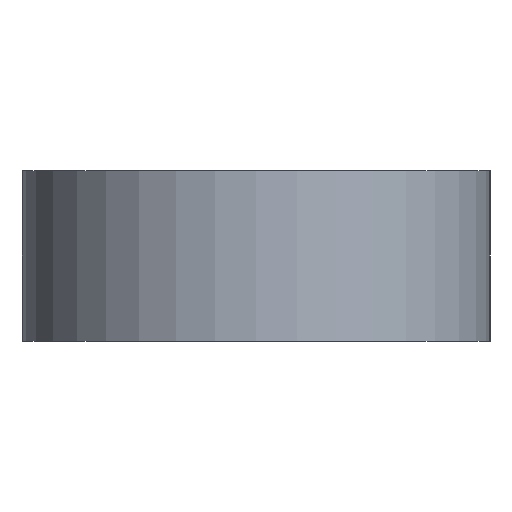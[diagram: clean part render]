
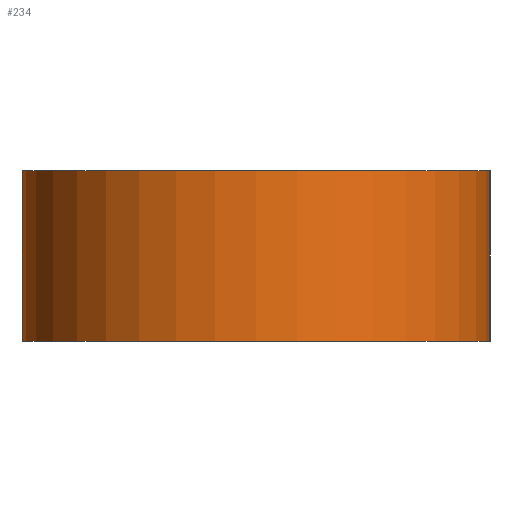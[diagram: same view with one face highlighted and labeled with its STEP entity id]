
A CAD part, left-side view. The second image highlights one B-rep face of the part: STEP entity #234.
In plain terms, the highlighted cylindrical face has radius 11 mm (diameter 22 mm), a partial arc.
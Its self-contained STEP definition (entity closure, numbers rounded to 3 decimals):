
#20=CYLINDRICAL_SURFACE('',#259,11.);
#47=FACE_OUTER_BOUND('',#67,.T.);
#67=EDGE_LOOP('',(#189,#190,#191,#192));
#98=LINE('',#388,#106);
#99=LINE('',#389,#107);
#106=VECTOR('',#312,8.);
#107=VECTOR('',#313,8.);
#111=CIRCLE('',#251,11.);
#118=CIRCLE('',#260,11.);
#130=VERTEX_POINT('',#363);
#131=VERTEX_POINT('',#365);
#139=VERTEX_POINT('',#385);
#140=VERTEX_POINT('',#386);
#152=EDGE_CURVE('',#131,#130,#111,.T.);
#162=EDGE_CURVE('',#139,#140,#118,.T.);
#163=EDGE_CURVE('',#140,#131,#98,.T.);
#164=EDGE_CURVE('',#130,#139,#99,.T.);
#189=ORIENTED_EDGE('',*,*,#162,.T.);
#190=ORIENTED_EDGE('',*,*,#163,.T.);
#191=ORIENTED_EDGE('',*,*,#152,.T.);
#192=ORIENTED_EDGE('',*,*,#164,.T.);
#234=ADVANCED_FACE('',(#47),#20,.T.);
#251=AXIS2_PLACEMENT_3D('',#366,#289,#290);
#259=AXIS2_PLACEMENT_3D('',#384,#308,#309);
#260=AXIS2_PLACEMENT_3D('',#387,#310,#311);
#289=DIRECTION('center_axis',(0.,0.,1.));
#290=DIRECTION('ref_axis',(-0.707,0.707,0.));
#308=DIRECTION('center_axis',(0.,0.,1.));
#309=DIRECTION('ref_axis',(-0.707,-0.707,0.));
#310=DIRECTION('center_axis',(0.,0.,-1.));
#311=DIRECTION('ref_axis',(-0.707,0.707,0.));
#312=DIRECTION('',(0.,0.,-1.));
#313=DIRECTION('',(0.,0.,1.));
#363=CARTESIAN_POINT('',(-39.,-11.,0.));
#365=CARTESIAN_POINT('',(-39.,11.,0.));
#366=CARTESIAN_POINT('Origin',(-39.,0.,0.));
#384=CARTESIAN_POINT('Origin',(-39.,0.,0.));
#385=CARTESIAN_POINT('',(-39.,-11.,8.));
#386=CARTESIAN_POINT('',(-39.,11.,8.));
#387=CARTESIAN_POINT('Origin',(-39.,0.,8.));
#388=CARTESIAN_POINT('',(-39.,11.,0.));
#389=CARTESIAN_POINT('',(-39.,-11.,0.));
